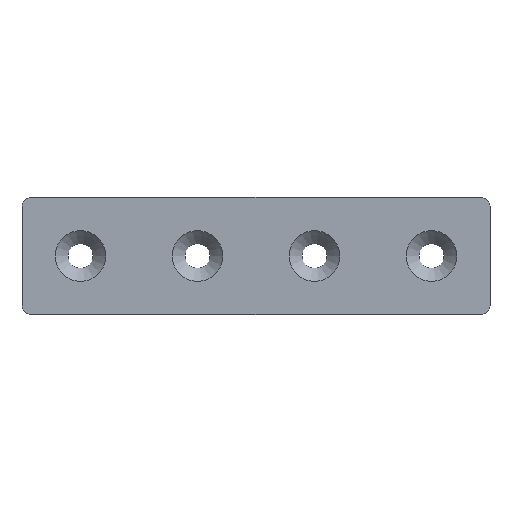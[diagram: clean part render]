
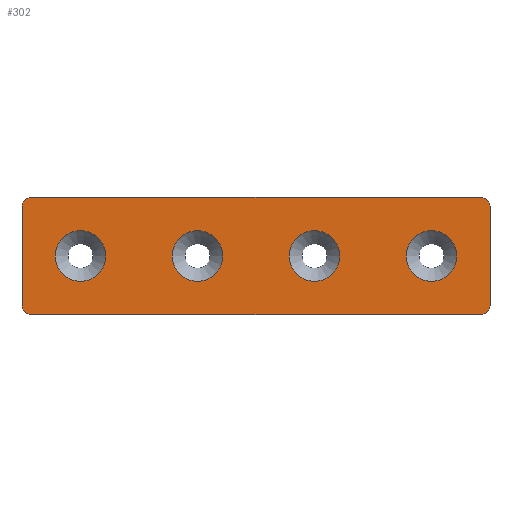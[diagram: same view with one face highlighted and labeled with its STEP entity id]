
A CAD part, top view. The second image highlights one B-rep face of the part: STEP entity #302.
In plain terms, the highlighted planar face has unit normal (0, 0, 1).
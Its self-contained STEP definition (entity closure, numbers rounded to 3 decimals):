
#28=PLANE('',#333);
#34=LINE('',#464,#50);
#38=LINE('',#476,#54);
#42=LINE('',#488,#58);
#45=LINE('',#497,#61);
#50=VECTOR('',#369,1000.);
#54=VECTOR('',#381,1000.);
#58=VECTOR('',#393,1000.);
#61=VECTOR('',#404,1000.);
#94=ORIENTED_EDGE('',*,*,#158,.F.);
#95=ORIENTED_EDGE('',*,*,#159,.F.);
#96=ORIENTED_EDGE('',*,*,#160,.F.);
#97=ORIENTED_EDGE('',*,*,#161,.F.);
#98=ORIENTED_EDGE('',*,*,#136,.T.);
#99=ORIENTED_EDGE('',*,*,#140,.T.);
#100=ORIENTED_EDGE('',*,*,#143,.T.);
#101=ORIENTED_EDGE('',*,*,#146,.T.);
#102=ORIENTED_EDGE('',*,*,#149,.T.);
#103=ORIENTED_EDGE('',*,*,#152,.T.);
#104=ORIENTED_EDGE('',*,*,#155,.T.);
#105=ORIENTED_EDGE('',*,*,#157,.T.);
#136=EDGE_CURVE('',#173,#172,#199,.T.);
#140=EDGE_CURVE('',#172,#175,#34,.T.);
#143=EDGE_CURVE('',#175,#177,#201,.T.);
#146=EDGE_CURVE('',#177,#179,#38,.T.);
#149=EDGE_CURVE('',#179,#181,#203,.T.);
#152=EDGE_CURVE('',#181,#183,#42,.T.);
#155=EDGE_CURVE('',#183,#185,#205,.T.);
#157=EDGE_CURVE('',#185,#173,#45,.T.);
#158=EDGE_CURVE('',#186,#186,#206,.T.);
#159=EDGE_CURVE('',#187,#187,#207,.T.);
#160=EDGE_CURVE('',#188,#188,#208,.T.);
#161=EDGE_CURVE('',#189,#189,#209,.T.);
#172=VERTEX_POINT('',#455);
#173=VERTEX_POINT('',#457);
#175=VERTEX_POINT('',#463);
#177=VERTEX_POINT('',#469);
#179=VERTEX_POINT('',#475);
#181=VERTEX_POINT('',#481);
#183=VERTEX_POINT('',#487);
#185=VERTEX_POINT('',#493);
#186=VERTEX_POINT('',#500);
#187=VERTEX_POINT('',#502);
#188=VERTEX_POINT('',#504);
#189=VERTEX_POINT('',#506);
#199=CIRCLE('',#319,3.);
#201=CIRCLE('',#323,3.);
#203=CIRCLE('',#327,3.);
#205=CIRCLE('',#331,3.);
#206=CIRCLE('',#334,8.65);
#207=CIRCLE('',#335,8.65);
#208=CIRCLE('',#336,8.65);
#209=CIRCLE('',#337,8.65);
#226=EDGE_LOOP('',(#94));
#227=EDGE_LOOP('',(#95));
#228=EDGE_LOOP('',(#96));
#229=EDGE_LOOP('',(#97));
#230=EDGE_LOOP('',(#98,#99,#100,#101,#102,#103,#104,#105));
#260=FACE_BOUND('',#226,.T.);
#261=FACE_BOUND('',#227,.T.);
#262=FACE_BOUND('',#228,.T.);
#263=FACE_BOUND('',#229,.T.);
#264=FACE_BOUND('',#230,.T.);
#302=ADVANCED_FACE('',(#260,#261,#262,#263,#264),#28,.T.);
#319=AXIS2_PLACEMENT_3D('',#456,#362,#363);
#323=AXIS2_PLACEMENT_3D('',#470,#375,#376);
#327=AXIS2_PLACEMENT_3D('',#482,#387,#388);
#331=AXIS2_PLACEMENT_3D('',#494,#399,#400);
#333=AXIS2_PLACEMENT_3D('',#498,#405,#406);
#334=AXIS2_PLACEMENT_3D('',#499,#407,#408);
#335=AXIS2_PLACEMENT_3D('',#501,#409,#410);
#336=AXIS2_PLACEMENT_3D('',#503,#411,#412);
#337=AXIS2_PLACEMENT_3D('',#505,#413,#414);
#362=DIRECTION('',(0.,0.,1.));
#363=DIRECTION('',(1.,0.,0.));
#369=DIRECTION('',(0.,-1.,0.));
#375=DIRECTION('',(0.,0.,1.));
#376=DIRECTION('',(1.,0.,0.));
#381=DIRECTION('',(1.,0.,0.));
#387=DIRECTION('',(0.,0.,1.));
#388=DIRECTION('',(1.,0.,0.));
#393=DIRECTION('',(0.,1.,0.));
#399=DIRECTION('',(0.,0.,1.));
#400=DIRECTION('',(1.,0.,0.));
#404=DIRECTION('',(-1.,0.,0.));
#405=DIRECTION('',(0.,0.,1.));
#406=DIRECTION('',(1.,0.,0.));
#407=DIRECTION('',(0.,0.,1.));
#408=DIRECTION('',(1.,0.,0.));
#409=DIRECTION('',(0.,0.,1.));
#410=DIRECTION('',(1.,0.,0.));
#411=DIRECTION('',(0.,0.,1.));
#412=DIRECTION('',(1.,0.,0.));
#413=DIRECTION('',(0.,0.,1.));
#414=DIRECTION('',(1.,0.,0.));
#455=CARTESIAN_POINT('',(0.,17.,5.));
#456=CARTESIAN_POINT('',(3.,17.,5.));
#457=CARTESIAN_POINT('',(3.,20.,5.));
#463=CARTESIAN_POINT('',(0.,-17.,5.));
#464=CARTESIAN_POINT('',(0.,17.,5.));
#469=CARTESIAN_POINT('',(3.,-20.,5.));
#470=CARTESIAN_POINT('',(3.,-17.,5.));
#475=CARTESIAN_POINT('',(157.,-20.,5.));
#476=CARTESIAN_POINT('',(3.,-20.,5.));
#481=CARTESIAN_POINT('',(160.,-17.,5.));
#482=CARTESIAN_POINT('',(157.,-17.,5.));
#487=CARTESIAN_POINT('',(160.,17.,5.));
#488=CARTESIAN_POINT('',(160.,-17.,5.));
#493=CARTESIAN_POINT('',(157.,20.,5.));
#494=CARTESIAN_POINT('',(157.,17.,5.));
#497=CARTESIAN_POINT('',(157.,20.,5.));
#498=CARTESIAN_POINT('',(3.,17.,5.));
#499=CARTESIAN_POINT('',(140.,0.,5.));
#500=CARTESIAN_POINT('',(148.65,0.,5.));
#501=CARTESIAN_POINT('',(100.,0.,5.));
#502=CARTESIAN_POINT('',(108.65,0.,5.));
#503=CARTESIAN_POINT('',(60.,0.,5.));
#504=CARTESIAN_POINT('',(68.65,0.,5.));
#505=CARTESIAN_POINT('',(20.,0.,5.));
#506=CARTESIAN_POINT('',(28.65,0.,5.));
